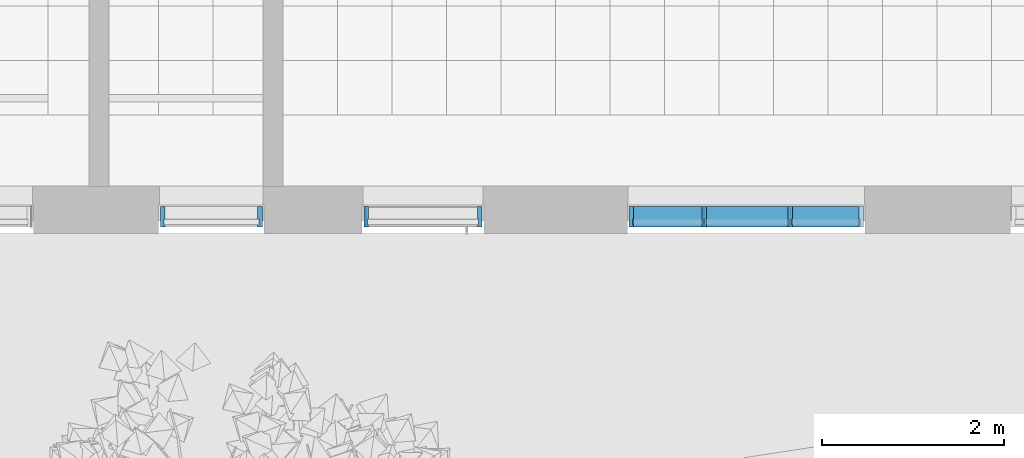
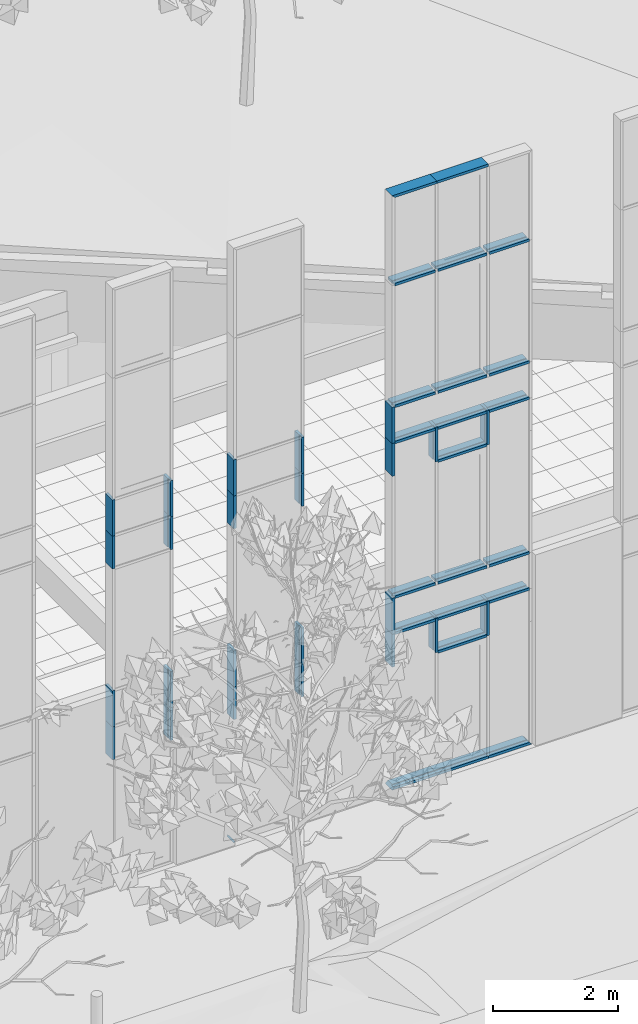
# One storey, part 45 of 246: 47 members, 3 elements without a shape of their own.
"""IFC2X3 building model written with IfcOpenShell, lengths in millimetres."""

from ifc_helpers import new_model, entity, si_unit, converted_unit, derived_unit, money_unit, direction, frame, origin_with_axes, place, context, subcontext, project, spatial, faceted_brep, source, transform, mapped, material, type_object, element, aggregate, save


model = new_model("IFC2X3")

# Units and contexts
model_context = context("Model", 3, precision=0.01, world=origin_with_axes(), true_north=direction((0.0, 1.0)))
body_context = subcontext(model_context, "Body", "Model", "MODEL_VIEW")
ifc_project = project(units=[si_unit("LENGTHUNIT", "METRE", prefix="MILLI"), si_unit("AREAUNIT", "SQUARE_METRE"), si_unit("VOLUMEUNIT", "CUBIC_METRE"), converted_unit("PLANEANGLEUNIT", "DEGREE", entity("IfcPlaneAngleMeasure", 0.0174532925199), si_unit("PLANEANGLEUNIT", "RADIAN"), dimensions=[0, 0, 0, 0, 0, 0, 0]), si_unit("SOLIDANGLEUNIT", "STERADIAN"), money_unit("EUR"), converted_unit("TIMEUNIT", "Year", entity("IfcTimeMeasure", 31556926.0), si_unit("TIMEUNIT", "SECOND"), dimensions=[0, 0, 1, 0, 0, 0, 0]), si_unit("MASSUNIT", "GRAM", prefix="KILO"), si_unit("THERMODYNAMICTEMPERATUREUNIT", "DEGREE_CELSIUS"), si_unit("LUMINOUSINTENSITYUNIT", "LUMEN"), si_unit("ENERGYUNIT", "JOULE", prefix="MEGA"), derived_unit("THERMALCONDUCTANCEUNIT", [(si_unit("POWERUNIT", "WATT"), 1), (si_unit("LENGTHUNIT", "METRE"), -1), (si_unit("THERMODYNAMICTEMPERATUREUNIT", "KELVIN"), -1)]), derived_unit("SPECIFICHEATCAPACITYUNIT", [(si_unit("ENERGYUNIT", "JOULE"), 1), (si_unit("MASSUNIT", "GRAM", prefix="KILO"), -1), (si_unit("THERMODYNAMICTEMPERATUREUNIT", "KELVIN"), -1)]), derived_unit("MASSDENSITYUNIT", [(si_unit("MASSUNIT", "GRAM", prefix="KILO"), 1), (si_unit("VOLUMEUNIT", "CUBIC_METRE"), -1)])], contexts=[model_context])

# Site, building, storey
site_placement = place(None, origin_with_axes())
site = spatial("IfcSite", under=ifc_project, at=site_placement, Name="L.Koidula tn 11b", CompositionType="ELEMENT")
building_placement = place(site_placement, origin_with_axes())
building = spatial("IfcBuilding", under=site, at=building_placement, Name="Rakvere Riigigümnaasium", CompositionType="ELEMENT")
storey_placement = place(building_placement, origin_with_axes())
storey = spatial("IfcBuildingStorey", under=building, at=storey_placement, Name="1.korrus 0,00", CompositionType="ELEMENT", Elevation=0.0)

# Curtain wall, members
curtain_wall_type = type_object("IfcCurtainWallType", Name="Curtain Wall Type", PredefinedType="NOTDEFINED")
curtain_wall_1_placement = place(storey_placement, frame((84320.1847914, 5111.45334637, -1.61944635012e-05), z_axis=(0.0, 0.0, 1.0), x_axis=(1.0, 0.0, 0.0)))
curtain_wall_1 = element("IfcCurtainWall", 1, at=curtain_wall_1_placement, inside=storey, type_object=curtain_wall_type, Name="KLF-05-1C")
ifc_material = material(Name="Alumiiniumprofiil (RAL 7021)")
member_type_1 = type_object("IfcMemberType", Name="Boundary Frame 50 x 222", PredefinedType="MULLION")
shared_shape_1 = source(origin_with_axes(), body_context, "Body", "Brep", [
    faceted_brep([(37.0, -32.5, 705.000000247), (37.0, 32.5, 705.000000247), (50.0, 32.5, 705.000000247), (50.0, 53.0, 705.000000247), (0.0, 53.0, 705.000000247), (0.0, -169.0, 705.000000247), (50.0, -169.0, 705.000000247), (50.0, -32.5, 705.000000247), (37.0, -32.5, 0.0), (37.0, 32.5, 0.0), (50.0, 32.5, 0.0), (50.0, 53.0, 0.0), (0.0, 53.0, 0.0), (0.0, -169.0, 0.0), (50.0, -169.0, 0.0), (50.0, -32.5, 0.0)], [[[0, 1, 2, 3, 4, 5, 6, 7]], [[1, 0, 8, 9]], [[10, 2, 1, 9]], [[2, 10, 11, 3]], [[12, 4, 3, 11]], [[13, 5, 4, 12]], [[14, 6, 5, 13]], [[15, 7, 6, 14]], [[0, 7, 15, 8]], [[8, 15, 14, 13, 12, 11, 10, 9]]]),
])
member_1_placement = place(curtain_wall_1_placement, frame((-560.000157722, 0.0, 3745.0), z_axis=(0.0, 0.0, -1.0), x_axis=(1.0, 0.0, 0.0)))
member_1 = element("IfcMember", 2, at=member_1_placement, type_object=member_type_1, material=ifc_material, Name="KLF-05-3C-Profiilid", ObjectType="MULLION", context=body_context, shape_type="MappedRepresentation", body=[
    mapped(shared_shape_1, transform((0.0, 0.0, 0.0))),
])
member_2_placement = place(curtain_wall_1_placement, frame((-560.000157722, 0.0, 7465.0), z_axis=(0.0, 0.0, -1.0), x_axis=(1.0, 0.0, 0.0)))
member_2 = element("IfcMember", 3, at=member_2_placement, type_object=member_type_1, material=ifc_material, Name="KLF-05-0C-Profiilid", ObjectType="MULLION", context=body_context, shape_type="MappedRepresentation", body=[
    mapped(shared_shape_1, transform((0.0, 0.0, 0.0))),
])
member_3_placement = place(curtain_wall_1_placement, frame((560.000157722, 0.0, 6760.0), z_axis=(0.0, 0.0, 1.0), x_axis=(-1.0, 0.0, 0.0)))
member_3 = element("IfcMember", 4, at=member_3_placement, type_object=member_type_1, material=ifc_material, Name="KLF-05-4C-Profiilid", ObjectType="MULLION", context=body_context, shape_type="MappedRepresentation", body=[
    mapped(shared_shape_1, transform((0.0, 0.0, 0.0))),
])
member_4_placement = place(curtain_wall_1_placement, frame((560.000157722, 0.0, 3040.0), z_axis=(0.0, 0.0, 1.0), x_axis=(-1.0, 0.0, 0.0)))
member_4 = element("IfcMember", 5, at=member_4_placement, type_object=member_type_1, material=ifc_material, Name="KLF-05-1C-Profiilid", ObjectType="MULLION", context=body_context, shape_type="MappedRepresentation", body=[
    mapped(shared_shape_1, transform((0.0, 0.0, 0.0))),
])

curtain_wall_2_placement = place(storey_placement, frame((86440.3647921, 5111.45334637, -1.61944652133e-05), z_axis=(0.0, 0.0, 1.0), x_axis=(1.0, 0.0, 0.0)))
curtain_wall_2 = element("IfcCurtainWall", 6, at=curtain_wall_2_placement, inside=storey, type_object=curtain_wall_type, Name="KLF-05-1A")
member_5_placement = place(curtain_wall_2_placement, frame((859.6355553, 0.0, 6760.0), z_axis=(6.87355055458e-08, 0.0, 1.0), x_axis=(-1.0, 0.0, 6.87355055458e-08)))
member_5 = element("IfcMember", 7, at=member_5_placement, type_object=member_type_1, material=ifc_material, Name="KLF-05-4A-Profiilid", ObjectType="MULLION", context=body_context, shape_type="MappedRepresentation", body=[
    mapped(shared_shape_1, transform((0.0, 0.0, 0.0))),
])
member_6_placement = place(curtain_wall_2_placement, frame((859.6355553, 0.0, 3040.0), z_axis=(0.0, 0.0, 1.0), x_axis=(-1.0, 0.0, 0.0)))
member_6 = element("IfcMember", 8, at=member_6_placement, type_object=member_type_1, material=ifc_material, Name="KLF-05-1A-Profiilid", ObjectType="MULLION", context=body_context, shape_type="MappedRepresentation", body=[
    mapped(shared_shape_1, transform((0.0, 0.0, 0.0))),
])

# Member
shared_shape_2 = source(origin_with_axes(), body_context, "Body", "Brep", [
    faceted_brep([(37.0, -32.5, 640.0), (37.0, 32.5, 640.0), (50.0, 32.5, 640.0), (50.0, 53.0, 640.0), (0.0, 53.0, 640.0), (0.0, -169.0, 640.0), (50.0, -169.0, 640.0), (50.0, -32.5, 640.0), (37.0, -32.5, 0.0), (37.0, 32.5, 0.0), (50.0, 32.5, 0.0), (50.0, 53.0, 0.0), (0.0, 53.0, 0.0), (0.0, -169.0, 0.0), (50.0, -169.0, 0.0), (50.0, -32.5, 0.0)], [[[0, 1, 2, 3, 4, 5, 6, 7]], [[1, 0, 8, 9]], [[10, 2, 1, 9]], [[2, 10, 11, 3]], [[12, 4, 3, 11]], [[13, 5, 4, 12]], [[14, 6, 5, 13]], [[15, 7, 6, 14]], [[0, 7, 15, 8]], [[8, 15, 14, 13, 12, 11, 10, 9]]]),
])
member_7_placement = place(curtain_wall_1_placement, frame((-560.000157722, 0.0, 3040.0), z_axis=(0.0, 0.0, -1.0), x_axis=(1.0, 0.0, 0.0)))
member_7 = element("IfcMember", 9, at=member_7_placement, type_object=member_type_1, material=ifc_material, Name="KLF-05-4C-Profiilid", ObjectType="MULLION", context=body_context, shape_type="MappedRepresentation", body=[
    mapped(shared_shape_2, transform((0.0, 0.0, 0.0))),
])

member_8_placement = place(curtain_wall_1_placement, frame((-560.000157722, 0.0, 6760.0), z_axis=(0.0, 0.0, -1.0), x_axis=(1.0, 0.0, 0.0)))
member_8 = element("IfcMember", 10, at=member_8_placement, type_object=member_type_1, material=ifc_material, Name="KLF-05-1C-Profiilid", ObjectType="MULLION", context=body_context, shape_type="MappedRepresentation", body=[
    mapped(shared_shape_2, transform((0.0, 0.0, 0.0))),
])

member_9_placement = place(curtain_wall_1_placement, frame((560.000157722, 0.0, 6120.0), z_axis=(0.0, 0.0, 1.0), x_axis=(-1.0, 0.0, 0.0)))
member_9 = element("IfcMember", 11, at=member_9_placement, type_object=member_type_1, material=ifc_material, Name="KLF-05-3C-Profiilid", ObjectType="MULLION", context=body_context, shape_type="MappedRepresentation", body=[
    mapped(shared_shape_2, transform((0.0, 0.0, 0.0))),
])

member_10_placement = place(curtain_wall_1_placement, frame((560.000157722, 0.0, 2400.0), z_axis=(0.0, 0.0, 1.0), x_axis=(-1.0, 0.0, 0.0)))
member_10 = element("IfcMember", 12, at=member_10_placement, type_object=member_type_1, material=ifc_material, Name="KLF-05-0C-Profiilid", ObjectType="MULLION", context=body_context, shape_type="MappedRepresentation", body=[
    mapped(shared_shape_2, transform((0.0, 0.0, 0.0))),
])

aggregate(curtain_wall_1, [member_7, member_1, member_8, member_2, member_3, member_9, member_4, member_10])

member_11_placement = place(curtain_wall_2_placement, frame((859.6355553, 0.0, 6120.0), z_axis=(0.0, 0.0, 1.0), x_axis=(-1.0, 0.0, 0.0)))
member_11 = element("IfcMember", 13, at=member_11_placement, type_object=member_type_1, material=ifc_material, Name="KLF-05-3A-Profiilid", ObjectType="MULLION", context=body_context, shape_type="MappedRepresentation", body=[
    mapped(shared_shape_2, transform((0.0, 0.0, 0.0))),
])

member_12_placement = place(curtain_wall_2_placement, frame((859.6355553, 0.0, 2400.0), z_axis=(0.0, 0.0, 1.0), x_axis=(-1.0, 0.0, 0.0)))
member_12 = element("IfcMember", 14, at=member_12_placement, type_object=member_type_1, material=ifc_material, Name="KLF-05-0A-Profiilid", ObjectType="MULLION", context=body_context, shape_type="MappedRepresentation", body=[
    mapped(shared_shape_2, transform((0.0, 0.0, 0.0))),
])

shared_shape_3 = source(origin_with_axes(), body_context, "Body", "Brep", [
    faceted_brep([(-37.0, -32.5, 705.0), (-50.0, -32.5, 705.0), (-50.0, -169.0, 705.0), (0.0, -169.0, 705.0), (0.0, 53.0, 705.0), (-50.0, 53.0, 705.0), (-50.0, 32.5, 705.0), (-37.0, 32.5, 705.0), (-37.0, -32.5, 0.0), (-50.0, -32.5, 0.0), (-50.0, -169.0, 0.0), (0.0, -169.0, 0.0), (0.0, 53.0, 0.0), (-50.0, 53.0, 0.0), (-50.0, 32.5, 0.0), (-37.0, 32.5, 0.0)], [[[0, 1, 2, 3, 4, 5, 6, 7]], [[0, 8, 9, 1]], [[9, 10, 2, 1]], [[10, 11, 3, 2]], [[11, 12, 4, 3]], [[12, 13, 5, 4]], [[6, 5, 13, 14]], [[14, 15, 7, 6]], [[7, 15, 8, 0]], [[8, 15, 14, 13, 12, 11, 10, 9]]]),
])
member_13_placement = place(curtain_wall_2_placement, frame((-440.585924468, 0.0, 6760.0), z_axis=(0.0, 0.0, 1.0), x_axis=(-1.0, 0.0, 0.0)))
member_13 = element("IfcMember", 15, at=member_13_placement, type_object=member_type_1, material=ifc_material, Name="KLF-05-0A-Profiilid", ObjectType="MULLION", context=body_context, shape_type="MappedRepresentation", body=[
    mapped(shared_shape_3, transform((0.0, 0.0, 0.0))),
])

member_14_placement = place(curtain_wall_2_placement, frame((-440.585924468, 0.0, 3040.0), z_axis=(0.0, 0.0, 1.0), x_axis=(-1.0, 0.0, 0.0)))
member_14 = element("IfcMember", 16, at=member_14_placement, type_object=member_type_1, material=ifc_material, Name="KLF-05-3A-Profiilid", ObjectType="MULLION", context=body_context, shape_type="MappedRepresentation", body=[
    mapped(shared_shape_3, transform((0.0, 0.0, 0.0))),
])

# Curtain wall, members
curtain_wall_3_placement = place(storey_placement, frame((90220.0003282, 5111.43278481, -1.61944594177e-05), z_axis=(0.0, 0.0, 1.0), x_axis=(1.0, 0.0, 0.0)))
curtain_wall_3 = element("IfcCurtainWall", 17, at=curtain_wall_3_placement, inside=storey, type_object=curtain_wall_type, Name="KLF-05-3A")
member_15_placement = place(curtain_wall_3_placement, frame((-1299.99999984, 0.0205615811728, 3040.0), z_axis=(0.0, 0.0, 1.0), x_axis=(-0.999999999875, 1.58166009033e-05, 0.0)))
member_15 = element("IfcMember", 18, at=member_15_placement, type_object=member_type_1, material=ifc_material, Name="KLF-05-1A-Profiilid", ObjectType="MULLION", context=body_context, shape_type="MappedRepresentation", body=[
    mapped(shared_shape_3, transform((0.0, 0.0, 0.0))),
])
member_16_placement = place(curtain_wall_3_placement, frame((-1299.99999984, 0.0205615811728, 6760.0), z_axis=(0.0, 0.0, 1.0), x_axis=(-0.999999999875, 1.58166009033e-05, 0.0)))
member_16 = element("IfcMember", 19, at=member_16_placement, type_object=member_type_1, material=ifc_material, Name="KLF-05-8A-Profiilid", ObjectType="MULLION", context=body_context, shape_type="MappedRepresentation", body=[
    mapped(shared_shape_3, transform((0.0, 0.0, 0.0))),
])

# Member
shared_shape_4 = source(origin_with_axes(), body_context, "Body", "Brep", [
    faceted_brep([(-37.0, -32.5, 640.0), (-50.0, -32.5, 640.0), (-50.0, -169.0, 640.0), (0.0, -169.0, 640.0), (0.0, 53.0, 640.0), (-50.0, 53.0, 640.0), (-50.0, 32.5, 640.0), (-37.0, 32.5, 640.0), (-37.0, -32.5, 0.0), (-50.0, -32.5, 0.0), (-50.0, -169.0, 0.0), (0.0, -169.0, 0.0), (0.0, 53.0, 0.0), (-50.0, 53.0, 0.0), (-50.0, 32.5, 0.0), (-37.0, 32.5, 0.0)], [[[0, 1, 2, 3, 4, 5, 6, 7]], [[0, 8, 9, 1]], [[9, 10, 2, 1]], [[10, 11, 3, 2]], [[11, 12, 4, 3]], [[12, 13, 5, 4]], [[6, 5, 13, 14]], [[14, 15, 7, 6]], [[7, 15, 8, 0]], [[8, 15, 14, 13, 12, 11, 10, 9]]]),
])
member_17_placement = place(curtain_wall_2_placement, frame((-440.585924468, 0.0, 6120.0), z_axis=(0.0, 0.0, 1.0), x_axis=(-1.0, 0.0, 0.0)))
member_17 = element("IfcMember", 20, at=member_17_placement, type_object=member_type_1, material=ifc_material, Name="KLF-05-1A-Profiilid", ObjectType="MULLION", context=body_context, shape_type="MappedRepresentation", body=[
    mapped(shared_shape_4, transform((0.0, 0.0, 0.0))),
])

member_18_placement = place(curtain_wall_2_placement, frame((-440.585924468, 0.0, 2400.0), z_axis=(0.0, 0.0, 1.0), x_axis=(-1.0, 0.0, 0.0)))
member_18 = element("IfcMember", 21, at=member_18_placement, type_object=member_type_1, material=ifc_material, Name="KLF-05-4A-Profiilid", ObjectType="MULLION", context=body_context, shape_type="MappedRepresentation", body=[
    mapped(shared_shape_4, transform((0.0, 0.0, 0.0))),
])

member_19_placement = place(curtain_wall_3_placement, frame((-1299.99999984, 0.0205615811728, 2400.0), z_axis=(0.0, 0.0, 1.0), x_axis=(-0.999999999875, 1.58166009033e-05, 0.0)))
member_19 = element("IfcMember", 22, at=member_19_placement, type_object=member_type_1, material=ifc_material, Name="KLF-05-2A-Profiilid", ObjectType="MULLION", context=body_context, shape_type="MappedRepresentation", body=[
    mapped(shared_shape_4, transform((0.0, 0.0, 0.0))),
])

member_20_placement = place(curtain_wall_3_placement, frame((-1299.99999984, 0.0205615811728, 6120.0), z_axis=(0.0, 0.0, 1.0), x_axis=(-0.999999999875, 1.58166009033e-05, 0.0)))
member_20 = element("IfcMember", 23, at=member_20_placement, type_object=member_type_1, material=ifc_material, Name="KLF-05-9A-Profiilid", ObjectType="MULLION", context=body_context, shape_type="MappedRepresentation", body=[
    mapped(shared_shape_4, transform((0.0, 0.0, 0.0))),
])

member_type_2 = type_object("IfcMemberType", Name="Transom Frame 50 x 222", PredefinedType="MULLION")
shared_shape_5 = source(origin_with_axes(), body_context, "Body", "Brep", [
    faceted_brep([(-12.0, -32.5, 925.0), (-25.0, -32.5, 925.0), (-25.0, -169.0, 925.0), (25.0, -169.0, 925.0), (25.0, -32.5, 925.0), (12.0, -32.5, 925.0), (12.0, 32.5, 925.0), (25.0, 32.5, 925.0), (25.0, 53.0, 925.0), (-25.0, 53.0, 925.0), (-25.0, 32.5, 925.0), (-12.0, 32.5, 925.0), (-12.0, -32.5, 25.0), (-25.0, -32.5, 25.0), (-25.0, -169.0, 25.0), (25.0, -169.0, 25.0), (25.0, -32.5, 25.0), (12.0, -32.5, 25.0), (12.0, 32.5, 25.0), (25.0, 32.5, 25.0), (25.0, 53.0, 25.0), (-25.0, 53.0, 25.0), (-25.0, 32.5, 25.0), (-12.0, 32.5, 25.0)], [[[0, 1, 2, 3, 4, 5, 6, 7, 8, 9, 10, 11]], [[1, 0, 12, 13]], [[1, 13, 14, 2]], [[2, 14, 15, 3]], [[4, 3, 15, 16]], [[4, 16, 17, 5]], [[5, 17, 18, 6]], [[7, 6, 18, 19]], [[19, 20, 8, 7]], [[8, 20, 21, 9]], [[22, 10, 9, 21]], [[11, 10, 22, 23]], [[0, 11, 23, 12]], [[23, 22, 21, 20, 19, 18, 17, 16, 15, 14, 13, 12]]]),
])
member_21_placement = place(curtain_wall_3_placement, frame((-474.999999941, 0.00751288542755, 7465.0), z_axis=(0.999999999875, -1.58166009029e-05, 0.0), x_axis=(0.0, 0.0, 1.0)))
member_21 = element("IfcMember", 24, at=member_21_placement, type_object=member_type_2, material=ifc_material, Name="KLF-05-3A-Profiilid", ObjectType="MULLION", context=body_context, shape_type="MappedRepresentation", body=[
    mapped(shared_shape_5, transform((0.0, 0.0, 0.0))),
])

member_22_placement = place(curtain_wall_3_placement, frame((-474.999999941, 0.00751288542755, 6760.0), z_axis=(0.999999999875, -1.58166009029e-05, 0.0), x_axis=(0.0, 0.0, 1.0)))
member_22 = element("IfcMember", 25, at=member_22_placement, type_object=member_type_2, material=ifc_material, Name="KLF-05-3A-Profiilid", ObjectType="MULLION", context=body_context, shape_type="MappedRepresentation", body=[
    mapped(shared_shape_5, transform((0.0, 0.0, 0.0))),
])

member_23_placement = place(curtain_wall_3_placement, frame((-474.999999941, 0.00751288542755, 6120.0), z_axis=(0.999999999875, -1.58166009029e-05, 0.0), x_axis=(0.0, 0.0, 1.0)))
member_23 = element("IfcMember", 26, at=member_23_placement, type_object=member_type_2, material=ifc_material, Name="KLF-05-3A-Profiilid", ObjectType="MULLION", context=body_context, shape_type="MappedRepresentation", body=[
    mapped(shared_shape_5, transform((0.0, 0.0, 0.0))),
])

member_24_placement = place(curtain_wall_3_placement, frame((-474.999999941, 0.00751288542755, 3745.0), z_axis=(0.999999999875, -1.58166009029e-05, 0.0), x_axis=(0.0, 0.0, 1.0)))
member_24 = element("IfcMember", 27, at=member_24_placement, type_object=member_type_2, material=ifc_material, Name="KLF-05-3A-Profiilid", ObjectType="MULLION", context=body_context, shape_type="MappedRepresentation", body=[
    mapped(shared_shape_5, transform((0.0, 0.0, 0.0))),
])

member_25_placement = place(curtain_wall_3_placement, frame((-474.999999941, 0.00751288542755, 2400.0), z_axis=(0.999999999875, -1.58166009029e-05, 0.0), x_axis=(0.0, 0.0, 1.0)))
member_25 = element("IfcMember", 28, at=member_25_placement, type_object=member_type_2, material=ifc_material, Name="KLF-05-3A-Profiilid", ObjectType="MULLION", context=body_context, shape_type="MappedRepresentation", body=[
    mapped(shared_shape_5, transform((0.0, 0.0, 0.0))),
])

member_26_placement = place(curtain_wall_3_placement, frame((-474.999999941, 0.00751288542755, 3040.0), z_axis=(0.999999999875, -1.58166009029e-05, 0.0), x_axis=(0.0, 0.0, 1.0)))
member_26 = element("IfcMember", 29, at=member_26_placement, type_object=member_type_2, material=ifc_material, Name="KLF-05-3A-Profiilid", ObjectType="MULLION", context=body_context, shape_type="MappedRepresentation", body=[
    mapped(shared_shape_5, transform((0.0, 0.0, 0.0))),
])

member_27_placement = place(curtain_wall_3_placement, frame((-474.999999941, 0.00751288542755, 9840.0), z_axis=(0.999999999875, -1.58166009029e-05, 0.0), x_axis=(0.0, 0.0, 1.0)))
member_27 = element("IfcMember", 30, at=member_27_placement, type_object=member_type_2, material=ifc_material, Name="KLF-05-6A-Profiilid", ObjectType="MULLION", context=body_context, shape_type="MappedRepresentation", body=[
    mapped(shared_shape_5, transform((0.0, 0.0, 0.0))),
])

member_type_3 = type_object("IfcMemberType", Name="Mullion Frame 50 x 222", PredefinedType="MULLION")
shared_shape_6 = source(origin_with_axes(), body_context, "Body", "Brep", [
    faceted_brep([(-12.0, -32.5, 665.0), (-25.0, -32.5, 665.0), (-25.0, -169.0, 665.0), (25.0, -169.0, 665.0), (25.0, -32.5, 665.0), (12.0, -32.5, 665.0), (12.0, 32.5, 665.0), (25.0, 32.5, 665.0), (25.0, 53.0, 665.0), (-25.0, 53.0, 665.0), (-25.0, 32.5, 665.0), (-12.0, 32.5, 665.0), (-12.0, -32.5, 0.0), (-25.0, -32.5, 0.0), (-25.0, -169.0, 0.0), (25.0, -169.0, 0.0), (25.0, -32.5, 0.0), (12.0, -32.5, 0.0), (12.0, 32.5, 0.0), (25.0, 32.5, 0.0), (25.0, 53.0, 0.0), (-25.0, 53.0, 0.0), (-25.0, 32.5, 0.0), (-12.0, 32.5, 0.0)], [[[0, 1, 2, 3, 4, 5, 6, 7, 8, 9, 10, 11]], [[1, 0, 12, 13]], [[1, 13, 14, 2]], [[3, 2, 14, 15]], [[4, 3, 15, 16]], [[4, 16, 17, 5]], [[5, 17, 18, 6]], [[7, 6, 18, 19]], [[19, 20, 8, 7]], [[9, 8, 20, 21]], [[22, 10, 9, 21]], [[11, 10, 22, 23]], [[0, 11, 23, 12]], [[23, 22, 21, 20, 19, 18, 17, 16, 15, 14, 13, 12]]]),
])
member_28_placement = place(curtain_wall_3_placement, frame((474.999999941, -0.00751288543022, 2400.0), z_axis=(0.0, 0.0, 1.0), x_axis=(-0.999999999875, 1.58166009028e-05, 0.0)))
member_28 = element("IfcMember", 31, at=member_28_placement, type_object=member_type_3, material=ifc_material, Name="KLF-05-3A-Profiilid", ObjectType="MULLION", context=body_context, shape_type="MappedRepresentation", body=[
    mapped(shared_shape_6, transform((0.0, 0.0, 0.0))),
])

member_29_placement = place(curtain_wall_3_placement, frame((-474.999999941, 0.00751288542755, 6120.0), z_axis=(0.0, 0.0, 1.0), x_axis=(-0.999999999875, 1.58166009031e-05, 0.0)))
member_29 = element("IfcMember", 32, at=member_29_placement, type_object=member_type_3, material=ifc_material, Name="KLF-05-3A-Profiilid", ObjectType="MULLION", context=body_context, shape_type="MappedRepresentation", body=[
    mapped(shared_shape_6, transform((0.0, 0.0, 0.0))),
])

member_30_placement = place(curtain_wall_3_placement, frame((474.999999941, -0.00751288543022, 6120.0), z_axis=(0.0, 0.0, 1.0), x_axis=(-0.999999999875, 1.58166009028e-05, 0.0)))
member_30 = element("IfcMember", 33, at=member_30_placement, type_object=member_type_3, material=ifc_material, Name="KLF-05-3A-Profiilid", ObjectType="MULLION", context=body_context, shape_type="MappedRepresentation", body=[
    mapped(shared_shape_6, transform((0.0, 0.0, 0.0))),
])

member_31_placement = place(curtain_wall_3_placement, frame((-474.999999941, 0.00751288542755, 2400.0), z_axis=(0.0, 0.0, 1.0), x_axis=(-0.999999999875, 1.58166009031e-05, 0.0)))
member_31 = element("IfcMember", 34, at=member_31_placement, type_object=member_type_3, material=ifc_material, Name="KLF-05-3A-Profiilid", ObjectType="MULLION", context=body_context, shape_type="MappedRepresentation", body=[
    mapped(shared_shape_6, transform((0.0, 0.0, 0.0))),
])

shared_shape_7 = source(origin_with_axes(), body_context, "Body", "Brep", [
    faceted_brep([(-12.0, -32.5, 755.000075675), (-25.0, -32.5, 755.000075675), (-25.0, -169.0, 755.000074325), (25.0, -169.0, 755.000074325), (25.0, -32.5, 755.000075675), (12.0, -32.5, 755.000075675), (12.0, 32.5, 755.000076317), (25.0, 32.5, 755.000076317), (25.0, 53.0, 755.00007652), (-25.0, 53.0, 755.00007652), (-25.0, 32.5, 755.000076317), (-12.0, 32.5, 755.000076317), (-12.0, -32.5, 25.0), (-25.0, -32.5, 25.0), (-25.0, -169.0, 25.0), (25.0, -169.0, 25.0), (25.0, -32.5, 25.0), (12.0, -32.5, 25.0), (12.0, 32.5, 25.0), (25.0, 32.5, 25.0), (25.0, 53.0, 25.0), (-25.0, 53.0, 25.0), (-25.0, 32.5, 25.0), (-12.0, 32.5, 25.0)], [[[0, 1, 2, 3, 4, 5, 6, 7, 8, 9, 10, 11]], [[1, 0, 12, 13]], [[1, 13, 14, 2]], [[2, 14, 15, 3]], [[4, 3, 15, 16]], [[4, 16, 17, 5]], [[5, 17, 18, 6]], [[7, 6, 18, 19]], [[19, 20, 8, 7]], [[8, 20, 21, 9]], [[22, 10, 9, 21]], [[11, 10, 22, 23]], [[0, 11, 23, 12]], [[23, 22, 21, 20, 19, 18, 17, 16, 15, 14, 13, 12]]]),
])
member_32_placement = place(curtain_wall_3_placement, frame((474.999999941, -0.00751288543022, 9840.0), z_axis=(0.999999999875, -1.58166009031e-05, 0.0), x_axis=(0.0, 0.0, 1.0)))
member_32 = element("IfcMember", 35, at=member_32_placement, type_object=member_type_2, material=ifc_material, Name="KLF-05-3A-Profiilid", ObjectType="MULLION", context=body_context, shape_type="MappedRepresentation", body=[
    mapped(shared_shape_7, transform((0.0, 0.0, 0.0))),
])

member_33_placement = place(curtain_wall_3_placement, frame((474.999999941, -0.00751288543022, 7465.0), z_axis=(0.999999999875, -1.58166009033e-05, 0.0), x_axis=(0.0, 0.0, 1.0)))
member_33 = element("IfcMember", 36, at=member_33_placement, type_object=member_type_2, material=ifc_material, Name="KLF-05-4A-Profiilid", ObjectType="MULLION", context=body_context, shape_type="MappedRepresentation", body=[
    mapped(shared_shape_7, transform((0.0, 0.0, 0.0))),
])

member_34_placement = place(curtain_wall_3_placement, frame((474.999999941, -0.00751288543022, 6760.0), z_axis=(0.999999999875, -1.58166009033e-05, 0.0), x_axis=(0.0, 0.0, 1.0)))
member_34 = element("IfcMember", 37, at=member_34_placement, type_object=member_type_2, material=ifc_material, Name="KLF-05-5A-Profiilid", ObjectType="MULLION", context=body_context, shape_type="MappedRepresentation", body=[
    mapped(shared_shape_7, transform((0.0, 0.0, 0.0))),
])

member_35_placement = place(curtain_wall_3_placement, frame((474.999999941, -0.00751288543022, 3745.0), z_axis=(0.999999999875, -1.58166009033e-05, 0.0), x_axis=(0.0, 0.0, 1.0)))
member_35 = element("IfcMember", 38, at=member_35_placement, type_object=member_type_2, material=ifc_material, Name="KLF-05-4A-Profiilid", ObjectType="MULLION", context=body_context, shape_type="MappedRepresentation", body=[
    mapped(shared_shape_7, transform((0.0, 0.0, 0.0))),
])

member_36_placement = place(curtain_wall_3_placement, frame((474.999999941, -0.00751288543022, 3040.0), z_axis=(0.999999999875, -1.58166009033e-05, 0.0), x_axis=(0.0, 0.0, 1.0)))
member_36 = element("IfcMember", 39, at=member_36_placement, type_object=member_type_2, material=ifc_material, Name="KLF-05-5A-Profiilid", ObjectType="MULLION", context=body_context, shape_type="MappedRepresentation", body=[
    mapped(shared_shape_7, transform((0.0, 0.0, 0.0))),
])

shared_shape_8 = source(origin_with_axes(), body_context, "Body", "Brep", [
    faceted_brep([(-12.0, -32.5, 800.0), (-25.0, -32.5, 800.0), (-25.0, -169.0, 800.0), (25.0, -169.0, 800.0), (25.0, -32.5, 800.0), (12.0, -32.5, 800.0), (12.0, 32.5, 800.0), (25.0, 32.5, 800.0), (25.0, 53.0, 800.0), (-25.0, 53.0, 800.0), (-25.0, 32.5, 800.0), (-12.0, 32.5, 800.0), (-12.0, -32.5, 50.0), (-25.0, -32.5, 50.0), (-25.0, -169.0, 50.0), (25.0, -169.0, 50.0), (25.0, -32.5, 50.0), (12.0, -32.5, 50.0), (12.0, 32.5, 50.0), (25.0, 32.5, 50.0), (25.0, 53.0, 50.0), (-25.0, 53.0, 50.0), (-25.0, 32.5, 50.0), (-12.0, 32.5, 50.0)], [[[0, 1, 2, 3, 4, 5, 6, 7, 8, 9, 10, 11]], [[1, 0, 12, 13]], [[1, 13, 14, 2]], [[2, 14, 15, 3]], [[4, 3, 15, 16]], [[4, 16, 17, 5]], [[5, 17, 18, 6]], [[7, 6, 18, 19]], [[19, 20, 8, 7]], [[8, 20, 21, 9]], [[22, 10, 9, 21]], [[11, 10, 22, 23]], [[0, 11, 23, 12]], [[23, 22, 21, 20, 19, 18, 17, 16, 15, 14, 13, 12]]]),
])
member_37_placement = place(curtain_wall_3_placement, frame((-1299.99999984, 0.0205615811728, 7465.0), z_axis=(0.999999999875, -1.58166009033e-05, 0.0), x_axis=(0.0, 0.0, 1.0)))
member_37 = element("IfcMember", 40, at=member_37_placement, type_object=member_type_2, material=ifc_material, Name="KLF-05-3A-Profiilid", ObjectType="MULLION", context=body_context, shape_type="MappedRepresentation", body=[
    mapped(shared_shape_8, transform((0.0, 0.0, 0.0))),
])

member_38_placement = place(curtain_wall_3_placement, frame((-1299.99999984, 0.0205615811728, 6760.0), z_axis=(0.999999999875, -1.58166009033e-05, 0.0), x_axis=(0.0, 0.0, 1.0)))
member_38 = element("IfcMember", 41, at=member_38_placement, type_object=member_type_2, material=ifc_material, Name="KLF-05-3A-Profiilid", ObjectType="MULLION", context=body_context, shape_type="MappedRepresentation", body=[
    mapped(shared_shape_8, transform((0.0, 0.0, 0.0))),
])

member_39_placement = place(curtain_wall_3_placement, frame((-1299.99999984, 0.0205615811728, 3745.0), z_axis=(0.999999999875, -1.58166009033e-05, 0.0), x_axis=(0.0, 0.0, 1.0)))
member_39 = element("IfcMember", 42, at=member_39_placement, type_object=member_type_2, material=ifc_material, Name="KLF-05-3A-Profiilid", ObjectType="MULLION", context=body_context, shape_type="MappedRepresentation", body=[
    mapped(shared_shape_8, transform((0.0, 0.0, 0.0))),
])

member_40_placement = place(curtain_wall_3_placement, frame((-1299.99999984, 0.0205615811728, 3040.0), z_axis=(0.999999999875, -1.58166009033e-05, 0.0), x_axis=(0.0, 0.0, 1.0)))
member_40 = element("IfcMember", 43, at=member_40_placement, type_object=member_type_2, material=ifc_material, Name="KLF-05-3A-Profiilid", ObjectType="MULLION", context=body_context, shape_type="MappedRepresentation", body=[
    mapped(shared_shape_8, transform((0.0, 0.0, 0.0))),
])

member_41_placement = place(curtain_wall_3_placement, frame((-1299.99999984, 0.0205615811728, 9840.0), z_axis=(0.999999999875, -1.58166009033e-05, 0.0), x_axis=(0.0, 0.0, 1.0)))
member_41 = element("IfcMember", 44, at=member_41_placement, type_object=member_type_2, material=ifc_material, Name="KLF-05-5A-Profiilid", ObjectType="MULLION", context=body_context, shape_type="MappedRepresentation", body=[
    mapped(shared_shape_8, transform((0.0, 0.0, 0.0))),
])

shared_shape_9 = source(origin_with_axes(), body_context, "Body", "Brep", [
    faceted_brep([(37.0, -32.5, 950.0), (37.0, 32.5, 950.0), (50.0, 32.5, 950.0), (50.0, 53.0, 950.0), (0.0, 53.0, 950.0), (0.0, -169.0, 950.0), (50.0, -169.0, 950.0), (50.0, -32.5, 950.0), (37.0, -32.5, 0.0), (37.0, 32.5, 0.0), (50.0, 32.5, 0.0), (50.0, 53.0, 0.0), (0.0, 53.0, 0.0), (0.0, -169.0, 0.0), (50.0, -169.0, 0.0), (50.0, -32.5, 0.0)], [[[0, 1, 2, 3, 4, 5, 6, 7]], [[1, 0, 8, 9]], [[10, 2, 1, 9]], [[2, 10, 11, 3]], [[12, 4, 3, 11]], [[13, 5, 4, 12]], [[14, 6, 5, 13]], [[15, 7, 6, 14]], [[0, 7, 15, 8]], [[8, 15, 14, 13, 12, 11, 10, 9]]]),
])
member_42_placement = place(curtain_wall_3_placement, frame((-474.999999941, 0.00751288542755, 0.0), z_axis=(0.999999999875, -1.58166009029e-05, 0.0), x_axis=(0.0, 0.0, 1.0)))
member_42 = element("IfcMember", 45, at=member_42_placement, type_object=member_type_1, material=ifc_material, Name="KLF-05-3A-Profiilid", ObjectType="MULLION", context=body_context, shape_type="MappedRepresentation", body=[
    mapped(shared_shape_9, transform((0.0, 0.0, 0.0))),
])

member_43_placement = place(curtain_wall_3_placement, frame((474.999999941, -0.00751288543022, 11590.0000411), z_axis=(-0.999999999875, 1.58166009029e-05, 0.0), x_axis=(0.0, 0.0, -1.0)))
member_43 = element("IfcMember", 46, at=member_43_placement, type_object=member_type_1, material=ifc_material, Name="KLF-05-4A-Profiilid", ObjectType="MULLION", context=body_context, shape_type="MappedRepresentation", body=[
    mapped(shared_shape_9, transform((0.0, 0.0, 0.0))),
])

shared_shape_10 = source(origin_with_axes(), body_context, "Body", "Brep", [
    faceted_brep([(37.0, -32.5, 768.000099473), (37.0, 32.5, 768.000099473), (50.0, 32.5, 755.000099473), (50.0, 53.0, 755.000099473), (0.0, 53.0, 805.000099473), (0.0, -169.0, 805.000099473), (50.0, -169.0, 755.000099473), (50.0, -32.5, 755.000099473), (37.0, -32.5, 0.0), (37.0, 32.5, 0.0), (50.0, 32.5, 0.0), (50.0, 53.0, 0.0), (0.0, 53.0, 0.0), (0.0, -169.0, 0.0), (50.0, -169.0, 0.0), (50.0, -32.5, 0.0)], [[[0, 1, 2, 3, 4, 5, 6, 7]], [[1, 0, 8, 9]], [[10, 2, 1, 9]], [[2, 10, 11, 3]], [[12, 4, 3, 11]], [[13, 5, 4, 12]], [[14, 6, 5, 13]], [[15, 7, 6, 14]], [[0, 7, 15, 8]], [[8, 15, 14, 13, 12, 11, 10, 9]]]),
])
member_44_placement = place(curtain_wall_3_placement, frame((474.999999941, -0.00751288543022, 0.0), z_axis=(0.999999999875, -1.58166009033e-05, 0.0), x_axis=(0.0, 0.0, 1.0)))
member_44 = element("IfcMember", 47, at=member_44_placement, type_object=member_type_1, material=ifc_material, Name="KLF-05-4A-Profiilid", ObjectType="MULLION", context=body_context, shape_type="MappedRepresentation", body=[
    mapped(shared_shape_10, transform((0.0, 0.0, 0.0))),
])

shared_shape_11 = source(origin_with_axes(), body_context, "Body", "Brep", [
    faceted_brep([(37.0, -32.5, 825.0), (37.0, 32.5, 825.0), (50.0, 32.5, 825.0), (50.0, 53.0, 825.0), (0.0, 53.0, 825.0), (0.0, -169.0, 825.0), (50.0, -169.0, 825.0), (50.0, -32.5, 825.0), (37.0, -32.5, 37.0), (37.0, 32.5, 37.0), (50.0, 32.5, 50.0), (50.0, 53.0, 50.0), (0.0, 53.0, 0.0), (0.0, -169.0, 0.0), (50.0, -169.0, 50.0), (50.0, -32.5, 50.0)], [[[0, 1, 2, 3, 4, 5, 6, 7]], [[1, 0, 8, 9]], [[10, 2, 1, 9]], [[2, 10, 11, 3]], [[4, 3, 11, 12]], [[5, 4, 12, 13]], [[6, 5, 13, 14]], [[15, 7, 6, 14]], [[0, 7, 15, 8]], [[8, 15, 14, 13, 12, 11, 10, 9]]]),
])
member_45_placement = place(curtain_wall_3_placement, frame((-1299.99999984, 0.0205615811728, 0.0), z_axis=(0.999999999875, -1.58166009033e-05, 0.0), x_axis=(0.0, 0.0, 1.0)))
member_45 = element("IfcMember", 48, at=member_45_placement, type_object=member_type_1, material=ifc_material, Name="KLF-05-2A-Profiilid", ObjectType="MULLION", context=body_context, shape_type="MappedRepresentation", body=[
    mapped(shared_shape_11, transform((0.0, 0.0, 0.0))),
])

shared_shape_12 = source(origin_with_axes(), body_context, "Body", "Brep", [
    faceted_brep([(37.0, -32.5, 788.0), (37.0, 32.5, 788.0), (50.0, 32.5, 775.0), (50.0, 53.0, 775.0), (0.0, 53.0, 825.0), (0.0, -169.0, 825.0), (50.0, -169.0, 775.0), (50.0, -32.5, 775.0), (37.0, -32.5, 0.0), (37.0, 32.5, 0.0), (50.0, 32.5, 0.0), (50.0, 53.0, 0.0), (0.0, 53.0, 0.0), (0.0, -169.0, 0.0), (50.0, -169.0, 0.0), (50.0, -32.5, 0.0)], [[[0, 1, 2, 3, 4, 5, 6, 7]], [[1, 0, 8, 9]], [[10, 2, 1, 9]], [[2, 10, 11, 3]], [[12, 4, 3, 11]], [[13, 5, 4, 12]], [[14, 6, 5, 13]], [[15, 7, 6, 14]], [[0, 7, 15, 8]], [[8, 15, 14, 13, 12, 11, 10, 9]]]),
])
member_46_placement = place(curtain_wall_3_placement, frame((-474.999999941, 0.00751288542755, 11590.0000411), z_axis=(-0.999999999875, 1.58166009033e-05, 0.0), x_axis=(0.0, 0.0, -1.0)))
member_46 = element("IfcMember", 49, at=member_46_placement, type_object=member_type_1, material=ifc_material, Name="KLF-05-5A-Profiilid", ObjectType="MULLION", context=body_context, shape_type="MappedRepresentation", body=[
    mapped(shared_shape_12, transform((0.0, 0.0, 0.0))),
])

aggregate(curtain_wall_3, [member_42, member_45, member_28, member_21, member_29, member_22, member_37, member_23, member_24, member_30, member_38, member_39, member_31, member_25, member_40, member_26, member_27, member_41, member_19, member_15, member_20, member_16, member_32, member_33, member_34, member_35, member_36, member_44, member_46, member_43])

shared_shape_13 = source(origin_with_axes(), body_context, "Body", "Brep", [
    faceted_brep([(0.0, 53.0, 0.0), (0.0, 53.0, 21.5362936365), (21.5362936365, 53.0, 21.5362936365), (0.0, -169.0, 0.0), (0.0, -169.0, 21.5362936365), (21.5362936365, -169.0, 21.5362936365)], [[[0, 1, 2]], [[3, 4, 1, 0]], [[2, 1, 4, 5]], [[2, 5, 3, 0]], [[5, 4, 3]]]),
])
member_47_placement = place(curtain_wall_2_placement, frame((-440.585924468, 0.0, 0.0), z_axis=(1.0, 0.0, 0.0), x_axis=(0.0, 0.0, 1.0)))
member_47 = element("IfcMember", 50, at=member_47_placement, type_object=member_type_1, material=ifc_material, Name="KLF-05-8A-Profiilid", ObjectType="MULLION", context=body_context, shape_type="MappedRepresentation", body=[
    mapped(shared_shape_13, transform((0.0, 0.0, 0.0))),
])

aggregate(curtain_wall_2, [member_13, member_14, member_47, member_17, member_18, member_5, member_11, member_6, member_12])

save(model, "model.ifc")
